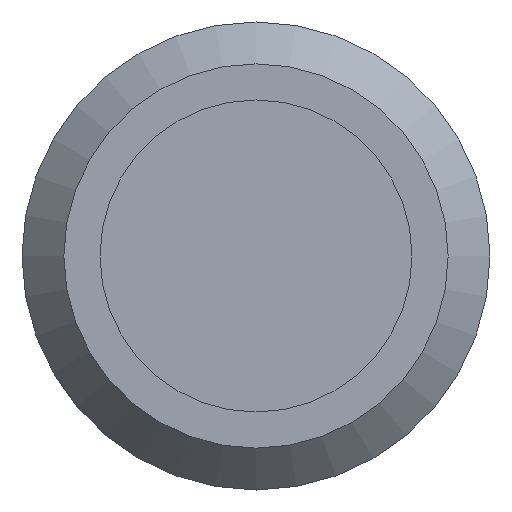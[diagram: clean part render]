
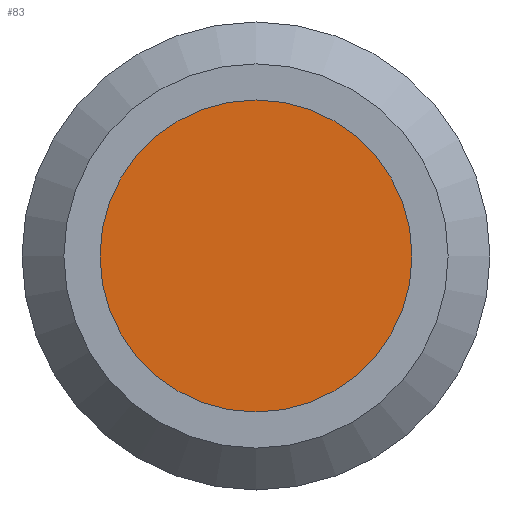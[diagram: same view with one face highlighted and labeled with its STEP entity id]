
A CAD part, front view. The second image highlights one B-rep face of the part: STEP entity #83.
In plain terms, the highlighted planar face has unit normal (0, -1, 0).
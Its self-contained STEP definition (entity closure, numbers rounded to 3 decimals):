
#83 = ADVANCED_FACE( '', ( #107 ), #108, .F. );
#107 = FACE_OUTER_BOUND( '', #141, .T. );
#108 = PLANE( '', #142 );
#141 = EDGE_LOOP( '', ( #219 ) );
#142 = AXIS2_PLACEMENT_3D( '', #220, #221, #222 );
#219 = ORIENTED_EDGE( '', *, *, #267, .T. );
#220 = CARTESIAN_POINT( '', ( 4., 0., 0. ) );
#221 = DIRECTION( '', ( 0., 1., 0. ) );
#222 = DIRECTION( '', ( 0., 0., 1. ) );
#267 = EDGE_CURVE( '', #304, #304, #305, .T. );
#304 = VERTEX_POINT( '', #364 );
#305 = CIRCLE( '', #365, 4. );
#364 = CARTESIAN_POINT( '', ( 0., 0., -4. ) );
#365 = AXIS2_PLACEMENT_3D( '', #395, #396, #397 );
#395 = CARTESIAN_POINT( '', ( 0., 0., 0. ) );
#396 = DIRECTION( '', ( 0., -1., 0. ) );
#397 = DIRECTION( '', ( 0., 0., -1. ) );
